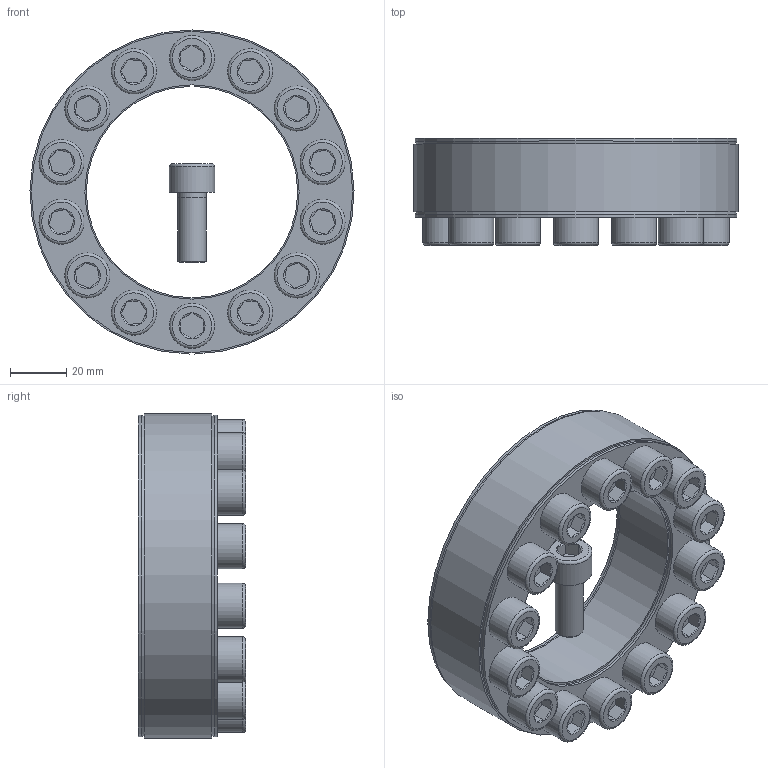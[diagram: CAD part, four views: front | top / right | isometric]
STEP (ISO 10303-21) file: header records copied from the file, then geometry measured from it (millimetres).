
FILE_DESCRIPTION( ( 'Unknown' ), '1' );
FILE_NAME( 'C:/Dokumente und Einstellungen/Sven/Desktop/homepage/cad - homepage/KBS40/KBS 40 - 75 x 115.stp', 'Unknown', ( 'Unknown' ), ( 'Unknown' ), 'XStep 1.0', 'Unknown', ' ' );
FILE_SCHEMA( ( 'automotive_design' ) );
Length unit declared in the file: millimetre
Products named in the file (16): Assem1; KBS 40 75x115; ISO 4762 M10x25; ISO 4762 M10x25-oa0; ISO 4762 M10x25-oa1; ISO 4762 M10x25-oa2; ISO 4762 M10x25-oa3; ISO 4762 M10x25-oa4; ISO 4762 M10x25-oa5; ISO 4762 M10x25-oa6; ISO 4762 M10x25-oa7; ISO 4762 M10x25-oa8; ISO 4762 M10x25-oa9; ISO 4762 M10x25-oa10; ISO 4762 M10x25-oa11; ISO 4762 M10x25-oa12
Bounding box: 115 x 38 x 114.99 mm (x, y, z)
Volume: 372842.9 mm3; surface area: 129298.3 mm2
Topology: 30 solids, 30 shells, 788 faces, 1456 edges, 840 vertices
Faces by surface type: plane 376, cone 204, cylinder 152, torus 56
Full cylindrical faces by diameter (mm): 9 x28, 10 x84, 16 x28, 76 x4, 114 x4
Entity records: 9689 total; most frequent: CARTESIAN_POINT 2022, DIRECTION 1600, ORIENTED_EDGE 1156, AXIS2_PLACEMENT_3D 696, EDGE_LOOP 600, EDGE_CURVE 578, FACE_OUTER_BOUND 496, ADVANCED_FACE 394
